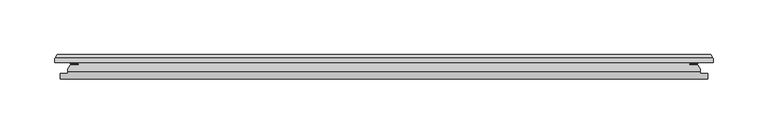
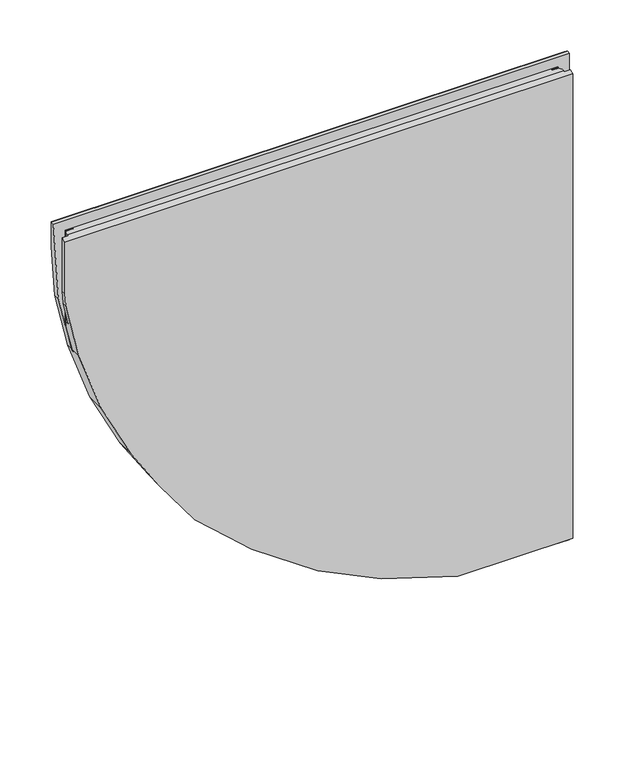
"""IFC4 building model written with IfcOpenShell, lengths in millimetres: plate geometry, Rockfon X CORNER 2 : Rockfon Blanka X."""

import ifcopenshell
import ifcopenshell.guid

model = None  # the IFC model being written
_history = None  # IfcOwnerHistory: only IFC2X3 demands one
_inside = {}  # id of a spatial element -> (the spatial element, [elements in it])
_under = {}  # id of a project, library or spatial element -> (it, [spatial elements below it])
_declared = {}  # id of a project -> (the project, [libraries it declares])
_typed = {}  # id of a type object -> (the type object, [elements of that type])
_made_of = {}  # id of a material, layer set ... -> (it, [elements and type objects made of it])


def new_model(schema):
    """Start an empty IFC model of exactly this schema.

    Asked for "IFC4X3", IfcOpenShell would pick the latest addendum, in which some entities
    have other attributes; the version numbers below select the first issue.
    IFC2X3 requires an IfcOwnerHistory on every rooted entity: one is made here for all.
    """
    global model, _history
    if schema == "IFC4X3":
        model = ifcopenshell.file(schema_version=(4, 3, 0, 0))
    else:
        model = ifcopenshell.file(schema=schema)
    _inside.clear()
    _under.clear()
    _declared.clear()
    _typed.clear()
    _made_of.clear()
    _history = None
    if model.schema == "IFC2X3":
        org = make("IfcOrganization", Name="unknown")
        user = make(
            "IfcPersonAndOrganization",
            ThePerson=make("IfcPerson", FamilyName="unknown"),
            TheOrganization=org,
        )
        app = make(
            "IfcApplication",
            ApplicationDeveloper=org,
            Version="unknown",
            ApplicationFullName="unknown",
            ApplicationIdentifier="unknown",
        )
        _history = make(
            "IfcOwnerHistory",
            OwningUser=user,
            OwningApplication=app,
            ChangeAction="ADDED",
            CreationDate=0,
        )
    return model


def make(cls, **values):
    """One entity of the class cls with the attributes given. An attribute that is None is left unset."""
    return model.create_entity(
        cls, **{name: value for name, value in values.items() if value is not None}
    )


def rooted(cls, **values):
    """An entity with a GlobalId (a new one), such as an element, a storey or a relation."""
    return make(cls, GlobalId=ifcopenshell.guid.new(), OwnerHistory=_history, **values)


def si_unit(unit_type, name, prefix=None):
    """IfcSIUnit, for example si_unit("LENGTHUNIT", "METRE", prefix="MILLI")."""
    return make("IfcSIUnit", UnitType=unit_type, Prefix=prefix, Name=name)


def assignment(units):
    """IfcUnitAssignment: the units of a project."""
    return None if units is None else make("IfcUnitAssignment", Units=units)


def point(xyz):
    """IfcCartesianPoint."""
    return None if xyz is None else make("IfcCartesianPoint", Coordinates=xyz)


def direction(xyz):
    """IfcDirection."""
    return None if xyz is None else make("IfcDirection", DirectionRatios=xyz)


def frame(location, z_axis=None, x_axis=None):
    """IfcAxis2Placement3D, a coordinate frame: its origin and axes. An axis left out is left unset."""
    return make(
        "IfcAxis2Placement3D",
        Location=point(location),
        Axis=direction(z_axis),
        RefDirection=direction(x_axis),
    )


def origin():
    """The frame at (0, 0, 0) with its axes left unset."""
    return frame((0.0, 0.0, 0.0))


def place(relative_to, where):
    """IfcLocalPlacement: puts the frame where relative to a parent placement (None: the world)."""
    return make(
        "IfcLocalPlacement", PlacementRelTo=relative_to, RelativePlacement=where
    )


def context(
    kind, dimensions, precision=None, world=None, true_north=None, identifier=None
):
    """IfcGeometricRepresentationContext, for example the 3D "Model" context."""
    return make(
        "IfcGeometricRepresentationContext",
        ContextIdentifier=identifier,
        ContextType=kind,
        CoordinateSpaceDimension=dimensions,
        Precision=precision,
        WorldCoordinateSystem=world,
        TrueNorth=true_north,
    )


def project(units=None, contexts=None):
    """IfcProject with its units and contexts."""
    return rooted(
        "IfcProject",
        Name="project",
        RepresentationContexts=contexts,
        UnitsInContext=assignment(units),
    )


def spatial(cls, under=None, at=None, **own):
    """A site, building, storey or space (cls), placed at a placement, below another one or the project."""
    s = rooted(cls, ObjectPlacement=at, **own)
    if under is not None:
        _under.setdefault(under.id(), (under, []))[1].append(s)
    return s


def faces_of(points, faces, orient=None, outer=None):
    """IfcFace entities. A face is a list of loops; a loop is a list of indices into points, from 0.

    orient and outer hold one flag for each loop. By default every Orientation is true, the
    first loop of a face is its IfcFaceOuterBound and the others are IfcFaceBound.
    """
    made = []
    for i, loops in enumerate(faces):
        bounds = []
        for j, loop in enumerate(loops):
            is_outer = j == 0 if outer is None else outer[i][j]
            bounds.append(
                make(
                    "IfcFaceOuterBound" if is_outer else "IfcFaceBound",
                    Bound=make("IfcPolyLoop", Polygon=[points[k] for k in loop]),
                    Orientation=True if orient is None else orient[i][j],
                )
            )
        made.append(make("IfcFace", Bounds=bounds))
    return made


def faceted_brep(points, faces, orient=None, outer=None, voids=None):
    """IfcFacetedBrep: a solid bounded by flat faces; with voids (closed shells), ...WithVoids."""
    shared = [point(p) for p in points]
    hull = make("IfcClosedShell", CfsFaces=faces_of(shared, faces, orient, outer))
    if voids is None:
        return make("IfcFacetedBrep", Outer=hull)
    return make(
        "IfcFacetedBrepWithVoids",
        Outer=hull,
        Voids=[
            make(cls, CfsFaces=faces_of(shared, fs, o, b)) for cls, fs, o, b in voids
        ],
    )


def shape(context_of_items, identifier, shape_type, items):
    """IfcShapeRepresentation: the items that make up one representation, for example the "Body"."""
    return make(
        "IfcShapeRepresentation",
        ContextOfItems=context_of_items,
        RepresentationIdentifier=identifier,
        RepresentationType=shape_type,
        Items=items,
    )


def source(mapping_origin, context_of_items, identifier, shape_type, items):
    """IfcRepresentationMap: a shape defined once, which mapped items show again and again."""
    return make(
        "IfcRepresentationMap",
        MappingOrigin=mapping_origin,
        MappedRepresentation=shape(context_of_items, identifier, shape_type, items),
    )


def transform(
    local_origin,
    x_axis=None,
    y_axis=None,
    z_axis=None,
    scale=None,
    scale2=None,
    scale3=None,
    uniform=True,
):
    """IfcCartesianTransformationOperator3D, or its non-uniform kind. x_axis, y_axis, z_axis: its Axis1, 2, 3."""
    if uniform:
        return make(
            "IfcCartesianTransformationOperator3D",
            Axis1=direction(x_axis),
            Axis2=direction(y_axis),
            LocalOrigin=point(local_origin),
            Scale=scale,
            Axis3=direction(z_axis),
        )
    return make(
        "IfcCartesianTransformationOperator3DnonUniform",
        Axis1=direction(x_axis),
        Axis2=direction(y_axis),
        LocalOrigin=point(local_origin),
        Scale=scale,
        Axis3=direction(z_axis),
        Scale2=scale2,
        Scale3=scale3,
    )


def mapped(mapping_source, mapping_target):
    """IfcMappedItem: shows the shape of a source again, moved by a transform."""
    return make(
        "IfcMappedItem", MappingSource=mapping_source, MappingTarget=mapping_target
    )


def made_of(thing, what):
    """Note that an element or type object is made of a material, layer set ...; save() writes the relation."""
    if what is not None:
        _made_of.setdefault(what.id(), (what, []))[1].append(thing)
    return thing


def element(
    cls,
    number,
    at=None,
    inside=None,
    cuts=None,
    type_object=None,
    material=None,
    context=None,
    identifier="Body",
    shape_type=None,
    held_by="IfcProductDefinitionShape",
    body=None,
    shapes=None,
    **own,
):
    """One element of the class cls, such as IfcWall. Its Tag is "e" and its number.

    at: its placement. inside: the storey or other place that contains it. cuts: it is an
    opening in that element (IfcRelVoidsElement). A single representation is given by context,
    identifier, shape_type and body (its items); several are given by shapes. held_by: the class
    of the entity that holds the representations. save() writes the other relations.
    """
    e = rooted(cls, Tag="e%d" % number, ObjectPlacement=at, **own)
    if body is not None:
        shapes = [shape(context, identifier, shape_type, body)]
    if shapes is not None:
        e.Representation = make(held_by, Representations=shapes)
    if inside is not None:
        _inside.setdefault(inside.id(), (inside, []))[1].append(e)
    if cuts is not None:
        rooted(
            "IfcRelVoidsElement", RelatingBuildingElement=cuts, RelatedOpeningElement=e
        )
    if type_object is not None:
        _typed.setdefault(type_object.id(), (type_object, []))[1].append(e)
    return made_of(e, material)


def aggregate(whole, parts):
    """IfcRelAggregates: a whole, such as a stair, and the parts it consists of."""
    return rooted("IfcRelAggregates", RelatingObject=whole, RelatedObjects=parts)


def save(model, path):
    """Write the relations noted so far, then the file.

    IfcRelAggregates (storeys below a building ...), IfcRelContainedInSpatialStructure (elements
    in a storey), IfcRelDefinesByType, IfcRelAssociatesMaterial and IfcRelDeclares: one each for
    every whole, place, type object, material and project.
    """
    for whole, parts in _under.values():
        aggregate(whole, parts)
    for where, things in _inside.values():
        rooted(
            "IfcRelContainedInSpatialStructure",
            RelatedElements=things,
            RelatingStructure=where,
        )
    for kind, things in _typed.values():
        rooted("IfcRelDefinesByType", RelatedObjects=things, RelatingType=kind)
    for what, things in _made_of.values():
        rooted("IfcRelAssociatesMaterial", RelatedObjects=things, RelatingMaterial=what)
    for by, libraries in _declared.values():
        rooted("IfcRelDeclares", RelatingContext=by, RelatedDefinitions=libraries)
    model.write(path)


def plate_458993fd(model_context):
    return source(origin(), model_context, "Body", "Brep", [
        faceted_brep([(297.7993463, 22.0, 597.9741918), (297.7993463, 22.0, 2.0258082), (223.4787281, 22.0, 3.5659927), (168.2864671, 22.0, 12.6885631), (72.4430827, 22.0, 42.7603423), (-1.3076784, 22.0, 78.7468162), (-77.6612273, 22.0, 132.0997001), (-105.8275864, 22.0, 157.139797), (-144.2019576, 22.0, 191.2548905), (-185.0572387, 22.0, 247.5683916), (-218.0213819, 22.0, 297.6766325), (-253.0782611, 22.0, 366.8733584), (-278.8330451, 22.0, 439.1740725), (-294.0376909, 22.0, 506.3373968), (-297.8000002, 22.0, 567.2099678), (-297.8000002, 22.0, 597.9741918), (294.9993463, 0.0, 14.84), (294.9993463, 0.0, 585.16), (-295.0000002, 0.0, 585.16), (-295.0000002, 0.0, 521.9071537), (-294.0376909, 0.0, 506.3373968), (-278.8330451, 0.0, 439.1740725), (-253.0782611, 0.0, 366.8733584), (-218.0213819, 0.0, 297.6766325), (-185.0572387, 0.0, 247.5683916), (-144.2019576, 0.0, 191.2548905), (-105.8275864, 0.0, 157.139797), (-77.6612273, 0.0, 132.0997001), (-1.3076784, 0.0, 78.7468162), (72.4430827, 0.0, 42.7603423), (161.429507, 0.0, 14.84), (-295.0000002, 5.0, 587.1801311), (-287.9500002, 5.0, 587.1801311), (-287.9500002, 5.0, 479.4463037), (-294.0376909, 5.0, 506.3373968), (-295.0000002, 5.0, 521.9071537), (299.6414599, 18.8549279, 599.79), (-299.6421138, 18.8549279, 599.79), (-299.8500002, 18.5, 599.79), (-299.8136519, 15.0, 599.79), (299.8493463, 15.0, 599.79), (299.8493463, 18.5, 599.79), (287.9493463, 6.3114715, 587.71), (-287.9500002, 6.3114715, 587.71), (294.9993463, 5.0, 587.1801311), (287.9493463, 5.0, 587.1801311), (286.0493463, 15.0, 587.71), (-286.0500002, 15.0, 587.71), (-286.0500002, 14.0, 587.71), (-278.0500002, 14.0, 587.71), (-278.0500002, 12.5, 587.71), (-285.9500002, 12.5, 587.71), (-287.9500002, 9.0, 587.71), (287.9493463, 9.0, 587.71), (285.9493463, 12.5, 587.71), (278.0493463, 12.5, 587.71), (278.0493463, 14.0, 587.71), (286.0493463, 14.0, 587.71), (287.9493463, 9.0, 12.29), (287.9493463, 6.3114715, 12.29), (170.6978051, 6.3114715, 12.29), (170.6978051, 15.0, 12.29), (286.0493463, 15.0, 12.29), (286.0493463, 14.0, 12.29), (278.0493463, 14.0, 12.29), (278.0493463, 12.5, 12.29), (285.9493463, 12.5, 12.29), (294.9993463, 5.0, 12.8198689), (168.2864671, 5.3249931, 12.6885631), (287.9493463, 5.0, 12.8198689), (223.4787281, 15.0, 3.5659927), (299.8493463, 15.0, 1.983325), (-294.0376909, 15.0, 506.3373968), (-286.0500002, 15.0, 471.0534533), (-286.0500002, 14.0, 471.0534533), (-278.8330451, 14.0, 439.1740725), (-278.0500002, 14.0, 436.9758514), (-278.0500002, 12.5, 436.9758514), (-278.8330451, 12.5, 439.1740725), (-285.9500002, 12.5, 470.6117244), (-287.9500002, 9.0, 479.4463037), (299.8493463, 18.5, 1.983325)], [[[0, 1, 2, 3, 4, 5, 6, 7, 8, 9, 10, 11, 12, 13, 14, 15]], [[16, 17, 18, 19, 20, 21, 22, 23, 24, 25, 26, 27, 28, 29, 30]], [[31, 32, 33, 34, 35]], [[36, 37, 38, 39, 40, 41]], [[37, 36, 0, 15]], [[42, 43, 32, 31, 18, 17, 44, 45]], [[46, 47, 48, 49, 50, 51, 52, 43, 42, 53, 54, 55, 56, 57]], [[58, 59, 60, 61, 62, 63, 64, 65, 66]], [[67, 16, 30, 68, 60, 59, 69]], [[38, 37, 15, 14]], [[46, 62, 61, 70, 71, 40, 39, 72, 73, 47]], [[48, 47, 73, 74]], [[49, 48, 74, 75, 76]], [[50, 49, 76, 77]], [[51, 50, 77, 78, 79]], [[52, 51, 79, 80]], [[32, 43, 52, 80, 33]], [[18, 31, 35, 19]], [[16, 67, 44, 17]], [[67, 69, 45, 44]], [[59, 58, 53, 42, 45, 69]], [[58, 66, 54, 53]], [[66, 65, 55, 54]], [[65, 64, 56, 55]], [[64, 63, 57, 56]], [[63, 62, 46, 57]], [[41, 40, 71, 81]], [[1, 0, 36, 41, 81]], [[70, 2, 1, 81, 71]], [[3, 68, 30, 29, 4]], [[5, 28, 27, 6]], [[8, 25, 24, 9]], [[11, 22, 21, 78, 77, 76, 75, 12]], [[34, 20, 19, 35]], [[13, 72, 39, 38, 14]], [[68, 3, 2, 70, 61, 60]], [[28, 5, 4, 29]], [[25, 8, 7, 26]], [[9, 24, 23, 10]], [[22, 11, 10, 23]], [[20, 34, 33, 80, 79, 78, 21]], [[72, 13, 12, 75, 74, 73]], [[26, 7, 6, 27]]]),
    ])


if __name__ == "__main__":
    model = new_model("IFC4")
    model_context = context("Model", 3, world=origin())
    ifc_project = project(units=[si_unit("LENGTHUNIT", "METRE", prefix="MILLI")], contexts=[model_context])
    site = spatial("IfcSite", under=ifc_project)
    building = spatial("IfcBuilding", under=site)
    placement = place(None, origin())
    plate_shape = plate_458993fd(model_context)
    element("IfcPlate", 1, ObjectType="Rockfon X CORNER 2 : Rockfon Blanka X", at=placement, inside=building, context=model_context, shape_type="MappedRepresentation", body=[
        mapped(plate_shape, transform((0.0, 0.0, 0.0), x_axis=(1.0, 0.0, 0.0), y_axis=(0.0, 1.0, 0.0), z_axis=(0.0, 0.0, 1.0))),
    ])
    save(model, "model.ifc")
